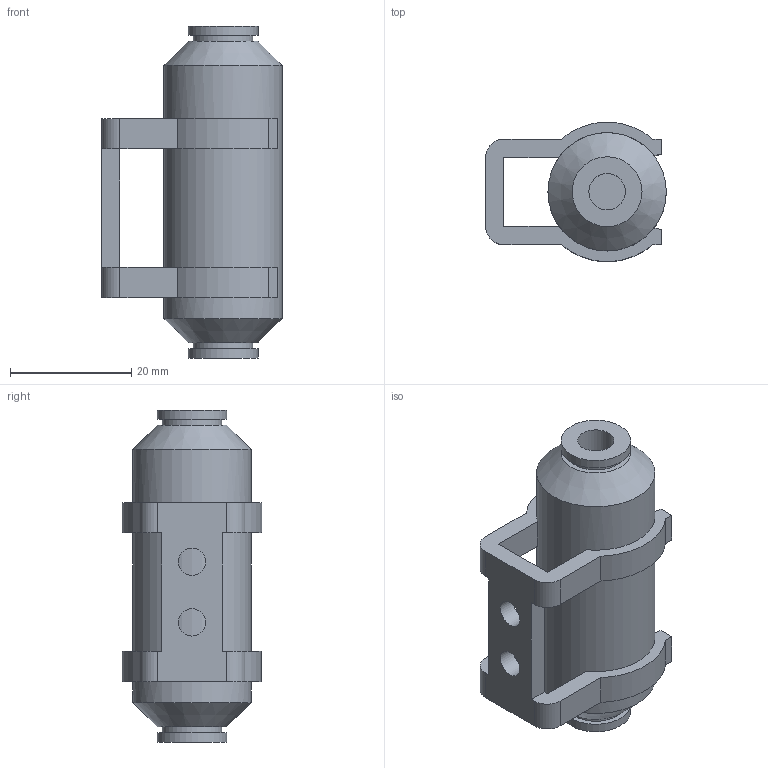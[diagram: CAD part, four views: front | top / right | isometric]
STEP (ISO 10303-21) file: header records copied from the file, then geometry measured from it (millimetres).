
FILE_DESCRIPTION(/* description */ ('FILTRO x VUOTO in LINEA 20 l/min T6'),/* implementation_level */ '2;1');
FILE_NAME(/* name */ 'C:\PNX_VAULTFOLDER\Area Tecnica\Disegni\VARIE-3D\Componenti\1900 (vuoto)\19F06_L_01.stp',/* time_stamp */ '2019-09-13T15:00:38+02:00',/* author */ ('maniean1'),/* organization */ ('Pneumax S.p.A.'),/* preprocessor_version */ 'ST-DEVELOPER v17',/* originating_system */ 'Autodesk Inventor 2019',/* authorisation */ '');
FILE_SCHEMA (('AUTOMOTIVE_DESIGN { 1 0 10303 214 3 1 1 }'));
Length unit declared in the file: millimetre
Products named in the file (1): 19F06.L.01
Bounding box: 29.75 x 22.93 x 54.7 mm (x, y, z)
Volume: 16180.9 mm3; surface area: 5836.6 mm2
Topology: 1 solids, 1 shells, 57 faces, 173 edges, 120 vertices
Faces by surface type: plane 38, cylinder 17, cone 2
Full cylindrical faces by diameter (mm): 4.5 x2, 6 x2, 9.8 x2, 11.5 x2, 19.5 x1
Entity records: 2042 total; most frequent: DIRECTION 353, CARTESIAN_POINT 351, ORIENTED_EDGE 346, EDGE_CURVE 173, AXIS2_PLACEMENT_3D 122, VERTEX_POINT 120, LINE 109, VECTOR 109
